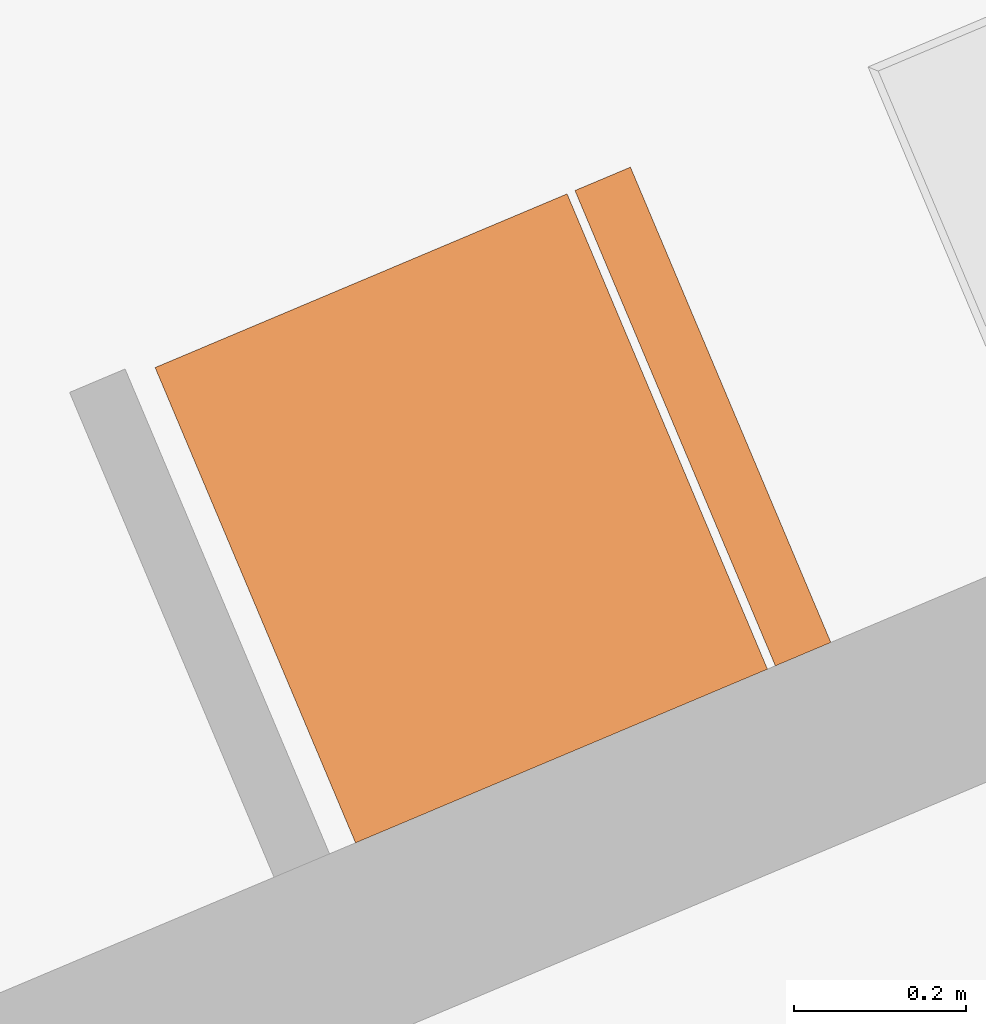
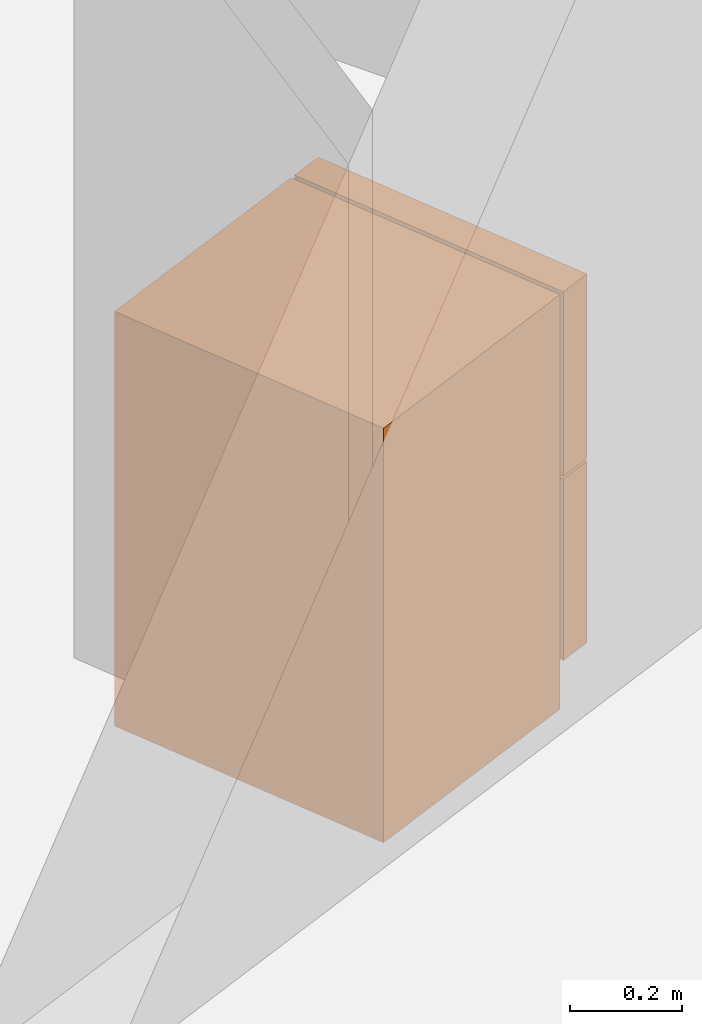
# One storey, part 116 of 121: 1 proxy.
"""IFC2X3 building model written with IfcOpenShell, lengths in metres."""

from ifc_helpers import new_model, entity, si_unit, converted_unit, derived_unit, money_unit, direction, frame, origin_with_axes, place, context, subcontext, project, spatial, open_shell, faceted_brep, surface_model, source, transform, mapped, type_object, element, save


model = new_model("IFC2X3")

# Units and contexts
model_context = context("Model", 3, precision=1e-05, world=origin_with_axes(), true_north=direction((0.0, 1.0)))
body_context = subcontext(model_context, "Body", "Model", "MODEL_VIEW")
ifc_project = project(units=[si_unit("LENGTHUNIT", "METRE"), si_unit("AREAUNIT", "SQUARE_METRE"), si_unit("VOLUMEUNIT", "CUBIC_METRE"), converted_unit("PLANEANGLEUNIT", "DEGREE", entity("IfcPlaneAngleMeasure", 0.0174532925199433), si_unit("PLANEANGLEUNIT", "RADIAN"), dimensions=[0, 0, 0, 0, 0, 0, 0]), money_unit("CHF"), converted_unit("TIMEUNIT", "Year", entity("IfcTimeMeasure", 31557600.0), si_unit("TIMEUNIT", "SECOND"), dimensions=[0, 0, 1, 0, 0, 0, 0]), si_unit("MASSUNIT", "GRAM", prefix="KILO"), si_unit("THERMODYNAMICTEMPERATUREUNIT", "DEGREE_CELSIUS"), si_unit("LUMINOUSINTENSITYUNIT", "LUMEN"), si_unit("ENERGYUNIT", "JOULE", prefix="MEGA"), derived_unit("THERMALCONDUCTANCEUNIT", [(si_unit("POWERUNIT", "WATT"), 1), (si_unit("LENGTHUNIT", "METRE"), -1), (si_unit("THERMODYNAMICTEMPERATUREUNIT", "KELVIN"), -1)]), derived_unit("SPECIFICHEATCAPACITYUNIT", [(si_unit("ENERGYUNIT", "JOULE"), 1), (si_unit("MASSUNIT", "GRAM", prefix="KILO"), -1), (si_unit("THERMODYNAMICTEMPERATUREUNIT", "KELVIN"), -1)]), derived_unit("MASSDENSITYUNIT", [(si_unit("MASSUNIT", "GRAM", prefix="KILO"), 1), (si_unit("VOLUMEUNIT", "CUBIC_METRE"), -1)])], contexts=[model_context])

# Site, building, storey
site_placement = place(None, origin_with_axes())
site = spatial("IfcSite", under=ifc_project, at=site_placement, Name="Site", CompositionType="ELEMENT")
building_placement = place(site_placement, origin_with_axes())
building = spatial("IfcBuilding", under=site, at=building_placement, Name="Bâtiment", CompositionType="ELEMENT")
storey_placement = place(building_placement, frame((0.0, 0.0, 2.75), z_axis=(0.0, 0.0, 1.0), x_axis=(1.0, 0.0, 0.0)))
storey = spatial("IfcBuildingStorey", under=building, at=storey_placement, Name="Etage 1", CompositionType="ELEMENT", Elevation=2.75)

# Proxy
building_element_proxy_type = type_object("IfcBuildingElementProxyType", PredefinedType="NOTDEFINED")
shared_shape = source(origin_with_axes(), body_context, "Body", "SurfaceModel", [
    faceted_brep([(0.0, 0.08, 0.1), (0.6, 0.08, 0.1), (0.6, 0.08, 0.9), (0.0, 0.08, 0.9), (0.0, 0.6, 0.1), (0.6, 0.6, 0.1), (0.6, 0.6, 0.9), (0.0, 0.6, 0.9)], [[[0, 1, 2, 3]], [[0, 4, 5, 1]], [[1, 5, 6, 2]], [[3, 2, 6, 7]], [[4, 0, 3, 7]], [[5, 4, 7, 6]]]),
    faceted_brep([(0.0, 0.08, 0.0), (0.6, 0.08, 0.0), (0.6, 0.08, 0.1), (0.0, 0.08, 0.1), (0.0, 0.6, 0.0), (0.6, 0.6, 0.0), (0.6, 0.6, 0.1), (0.0, 0.6, 0.1)], [[[0, 1, 2, 3]], [[0, 4, 5, 1]], [[1, 5, 6, 2]], [[3, 2, 6, 7]], [[4, 0, 3, 7]], [[5, 4, 7, 6]]]),
    faceted_brep([(0.0, 0.07, 0.1), (0.6, 0.07, 0.1), (0.6, 0.0, 0.1), (0.0, 0.0, 0.1), (0.0, 0.07000000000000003, 0.494), (0.6, 0.07000000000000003, 0.494), (0.6, 0.0, 0.494), (0.0, 0.0, 0.494)], [[[0, 1, 2, 3]], [[0, 4, 5, 1]], [[1, 5, 6, 2]], [[3, 2, 6, 7]], [[4, 0, 3, 7]], [[5, 4, 7, 6]]]),
    faceted_brep([(0.0, 0.07, 0.5), (0.6, 0.07, 0.5), (0.6, 0.0, 0.5), (0.0, 0.0, 0.5), (0.0, 0.07000000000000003, 0.9), (0.6, 0.07000000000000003, 0.9), (0.6, 0.0, 0.9), (0.0, 0.0, 0.9)], [[[0, 1, 2, 3]], [[0, 4, 5, 1]], [[1, 5, 6, 2]], [[3, 2, 6, 7]], [[4, 0, 3, 7]], [[5, 4, 7, 6]]]),
    surface_model("IfcShellBasedSurfaceModel", [(0.6, -0.03, 0.3), (0.6, -0.03, 0.4940000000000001), (0.6, 0.0, 0.4940000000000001), (0.6, 0.0, 0.3)], [open_shell([[[0, 1, 2, 3]]])]),
    surface_model("IfcShellBasedSurfaceModel", [(0.6, -0.03, 0.3), (0.6, -0.03, 0.4940000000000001), (0.57, -0.03, 0.4940000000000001), (0.57, -0.03, 0.3)], [open_shell([[[0, 1, 2, 3]]])]),
    surface_model("IfcShellBasedSurfaceModel", [(0.6, -0.03, 0.5), (0.6, -0.03, 0.7), (0.6, 0.0, 0.7), (0.6, 0.0, 0.5)], [open_shell([[[0, 1, 2, 3]]])]),
    surface_model("IfcShellBasedSurfaceModel", [(0.6, -0.03, 0.5), (0.6, -0.03, 0.7), (0.57, -0.03, 0.7), (0.57, -0.03, 0.5)], [open_shell([[[0, 1, 2, 3]]])]),
])
proxy_placement = place(storey_placement, frame((9565.95543989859, -1035.939215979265, 57.49999999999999), z_axis=(0.0, 0.0, 1.0), x_axis=(-0.3885045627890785, 0.9214467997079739, 0.0)))
element("IfcBuildingElementProxy", 1, at=proxy_placement, inside=storey, type_object=building_element_proxy_type, Name="Obj.-019", context=body_context, shape_type="MappedRepresentation", body=[
    mapped(shared_shape, transform((0.0, 0.0, 0.0))),
])

save(model, "model.ifc")
